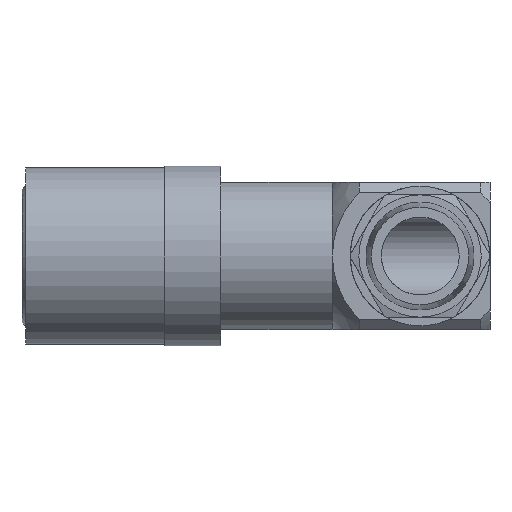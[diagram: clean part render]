
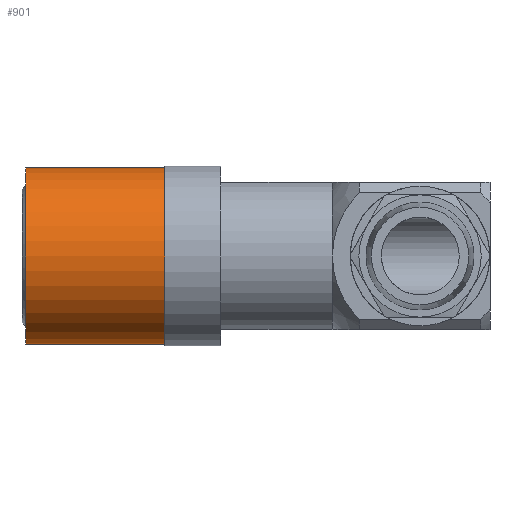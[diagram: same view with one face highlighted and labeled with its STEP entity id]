
A CAD part, front view. The second image highlights one B-rep face of the part: STEP entity #901.
In plain terms, the highlighted cylindrical face has radius 8.509 mm (diameter 17.018 mm), a full revolution.
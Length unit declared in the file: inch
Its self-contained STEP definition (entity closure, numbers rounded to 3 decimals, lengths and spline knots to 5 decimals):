
#277=ORIENTED_EDGE('',*,*,#503,.F.);
#278=ORIENTED_EDGE('',*,*,#502,.T.);
#502=EDGE_CURVE('',#601,#601,#676,.T.);
#503=EDGE_CURVE('',#602,#602,#677,.T.);
#601=VERTEX_POINT('',#1643);
#602=VERTEX_POINT('',#1646);
#676=CIRCLE('',#1037,0.335);
#677=CIRCLE('',#1039,0.335);
#723=EDGE_LOOP('',(#277));
#724=EDGE_LOOP('',(#278));
#811=FACE_BOUND('',#723,.T.);
#812=FACE_BOUND('',#724,.T.);
#871=CYLINDRICAL_SURFACE('',#1038,0.335);
#901=ADVANCED_FACE('',(#811,#812),#871,.T.);
#1037=AXIS2_PLACEMENT_3D('',#1642,#1286,#1287);
#1038=AXIS2_PLACEMENT_3D('',#1644,#1288,#1289);
#1039=AXIS2_PLACEMENT_3D('',#1645,#1290,#1291);
#1286=DIRECTION('',(1.,0.,0.));
#1287=DIRECTION('',(0.,0.,-1.));
#1288=DIRECTION('',(1.,0.,0.));
#1289=DIRECTION('',(0.,0.,-1.));
#1290=DIRECTION('',(1.,0.,0.));
#1291=DIRECTION('',(0.,0.,-1.));
#1642=CARTESIAN_POINT('',(0.,0.,0.));
#1643=CARTESIAN_POINT('',(0.,0.,-0.335));
#1644=CARTESIAN_POINT('',(1.93515,0.,0.));
#1645=CARTESIAN_POINT('',(0.53,0.,0.));
#1646=CARTESIAN_POINT('',(0.53,0.,-0.335));
